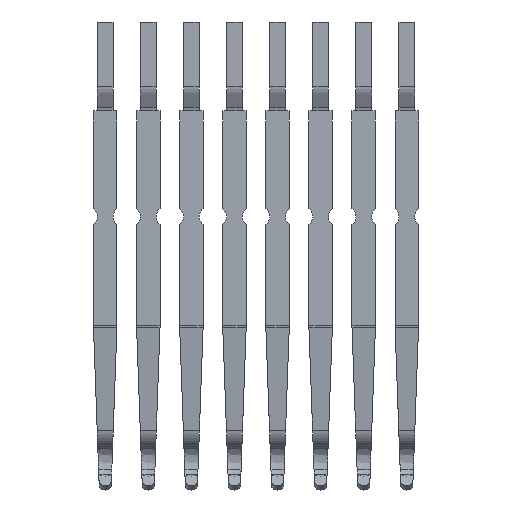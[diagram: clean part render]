
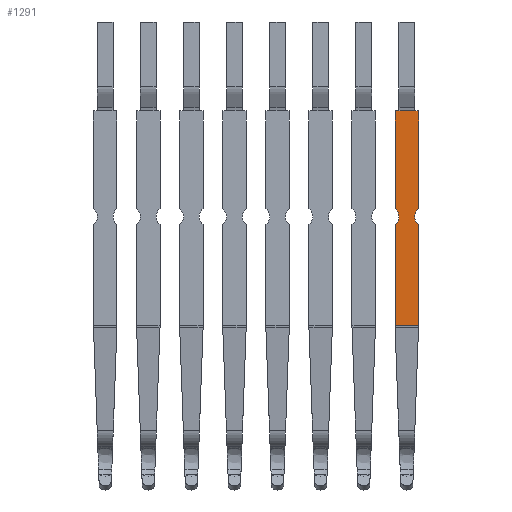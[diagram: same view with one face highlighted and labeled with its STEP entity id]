
A CAD part, front view. The second image highlights one B-rep face of the part: STEP entity #1291.
In plain terms, the highlighted planar face has unit normal (0, -1, 0).
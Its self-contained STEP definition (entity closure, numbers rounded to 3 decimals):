
#360=DIRECTION('',(-1.,0.,0.));
#361=VECTOR('',#360,0.1);
#362=CARTESIAN_POINT('',(-0.2,0.25,-0.3));
#363=LINE('',#362,#361);
#372=DIRECTION('',(0.,0.,1.));
#373=VECTOR('',#372,2.5);
#374=CARTESIAN_POINT('',(-0.3,0.25,-2.8));
#375=LINE('',#374,#373);
#376=DIRECTION('',(1.,0.,0.));
#377=VECTOR('',#376,0.1);
#378=CARTESIAN_POINT('',(0.2,0.25,-0.3));
#379=LINE('',#378,#377);
#380=CARTESIAN_POINT('',(0.45,0.25,-3.));
#381=DIRECTION('',(0.,-1.,0.));
#382=DIRECTION('',(-0.6,0.,0.8));
#383=AXIS2_PLACEMENT_3D('',#380,#381,#382);
#385=CARTESIAN_POINT('',(0.45,0.25,-3.));
#386=DIRECTION('',(0.,-1.,0.));
#387=DIRECTION('',(-1.,0.,0.));
#388=AXIS2_PLACEMENT_3D('',#385,#386,#387);
#390=DIRECTION('',(0.,0.,1.));
#391=VECTOR('',#390,2.58);
#392=CARTESIAN_POINT('',(-0.3,0.25,-5.78));
#393=LINE('',#392,#391);
#394=CARTESIAN_POINT('',(-0.45,0.25,-3.));
#395=DIRECTION('',(0.,-1.,0.));
#396=DIRECTION('',(0.6,0.,-0.8));
#397=AXIS2_PLACEMENT_3D('',#394,#395,#396);
#399=DIRECTION('',(-1.,0.,0.));
#400=VECTOR('',#399,0.4);
#401=CARTESIAN_POINT('',(0.2,0.25,-0.3));
#402=LINE('',#401,#400);
#519=DIRECTION('',(0.,0.,1.));
#520=VECTOR('',#519,2.5);
#521=CARTESIAN_POINT('',(0.3,0.25,-2.8));
#522=LINE('',#521,#520);
#539=DIRECTION('',(0.,0.,1.));
#540=VECTOR('',#539,2.58);
#541=CARTESIAN_POINT('',(0.3,0.25,-5.78));
#542=LINE('',#541,#540);
#561=DIRECTION('',(1.,0.,0.));
#562=VECTOR('',#561,0.6);
#563=CARTESIAN_POINT('',(-0.3,0.25,-5.78));
#564=LINE('',#563,#562);
#752=CARTESIAN_POINT('',(-0.3,0.25,-5.78));
#753=VERTEX_POINT('',#752);
#754=CARTESIAN_POINT('',(-0.3,0.25,-3.2));
#756=VERTEX_POINT('',#754);
#762=CARTESIAN_POINT('',(-0.3,0.25,-0.3));
#763=VERTEX_POINT('',#762);
#764=CARTESIAN_POINT('',(-0.3,0.25,-2.8));
#765=VERTEX_POINT('',#764);
#778=CARTESIAN_POINT('',(0.3,0.25,-3.2));
#779=VERTEX_POINT('',#778);
#780=CARTESIAN_POINT('',(0.3,0.25,-5.78));
#781=VERTEX_POINT('',#780);
#782=CARTESIAN_POINT('',(0.3,0.25,-2.8));
#783=VERTEX_POINT('',#782);
#784=CARTESIAN_POINT('',(0.3,0.25,-0.3));
#785=VERTEX_POINT('',#784);
#786=CARTESIAN_POINT('',(0.2,0.25,-3.));
#787=VERTEX_POINT('',#786);
#788=CARTESIAN_POINT('',(-0.2,0.25,-0.3));
#789=VERTEX_POINT('',#788);
#790=CARTESIAN_POINT('',(0.2,0.25,-0.3));
#791=VERTEX_POINT('',#790);
#1266=CARTESIAN_POINT('',(0.3,0.25,-0.3));
#1267=DIRECTION('',(0.,-1.,0.));
#1268=DIRECTION('',(0.,0.,-1.));
#1269=AXIS2_PLACEMENT_3D('',#1266,#1267,#1268);
#1270=PLANE('',#1269);
#1271=ORIENTED_EDGE('',*,*,#1246,.T.);
#1272=ORIENTED_EDGE('',*,*,#1257,.F.);
#1274=ORIENTED_EDGE('',*,*,#1273,.F.);
#1276=ORIENTED_EDGE('',*,*,#1275,.T.);
#1278=ORIENTED_EDGE('',*,*,#1277,.F.);
#1280=ORIENTED_EDGE('',*,*,#1279,.T.);
#1282=ORIENTED_EDGE('',*,*,#1281,.T.);
#1284=ORIENTED_EDGE('',*,*,#1283,.F.);
#1286=ORIENTED_EDGE('',*,*,#1285,.F.);
#1287=ORIENTED_EDGE('',*,*,#1188,.T.);
#1288=ORIENTED_EDGE('',*,*,#1205,.T.);
#1289=EDGE_LOOP('',(#1271,#1272,#1274,#1276,#1278,#1280,#1282,#1284,#1286,#1287,
#1288));
#1290=FACE_OUTER_BOUND('',#1289,.F.);
#1291=ADVANCED_FACE('',(#1290),#1270,.T.);
#384=CIRCLE('',#383,0.25);
#389=CIRCLE('',#388,0.25);
#398=CIRCLE('',#397,0.25);
#1188=EDGE_CURVE('',#753,#756,#393,.T.);
#1205=EDGE_CURVE('',#756,#765,#398,.T.);
#1246=EDGE_CURVE('',#765,#763,#375,.T.);
#1257=EDGE_CURVE('',#789,#763,#363,.T.);
#1273=EDGE_CURVE('',#791,#789,#402,.T.);
#1275=EDGE_CURVE('',#791,#785,#379,.T.);
#1277=EDGE_CURVE('',#783,#785,#522,.T.);
#1279=EDGE_CURVE('',#783,#787,#384,.T.);
#1281=EDGE_CURVE('',#787,#779,#389,.T.);
#1283=EDGE_CURVE('',#781,#779,#542,.T.);
#1285=EDGE_CURVE('',#753,#781,#564,.T.);
